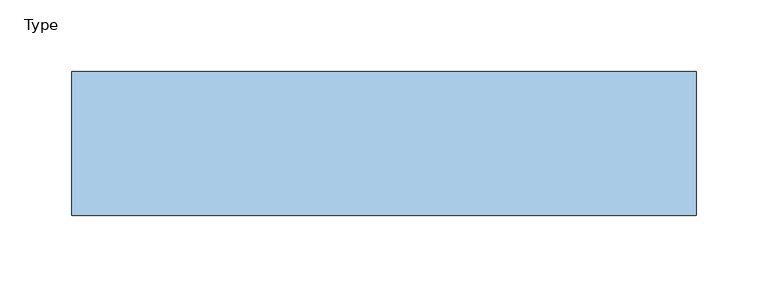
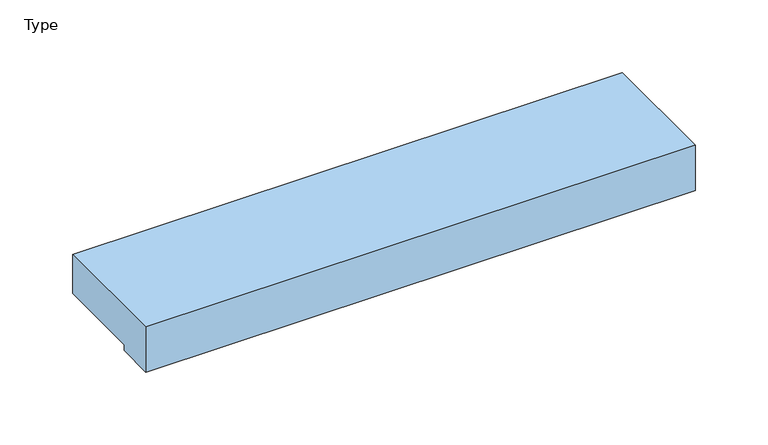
"""IFC4 building model written with IfcOpenShell, lengths in millimetres: window geometry, NLRS_30_MC_spouwlat_bovendorpel_bis_38x101 : Type."""

from ifc_helpers import new_model, si_unit, frame, origin, place, context, project, spatial, polyline, outline, extrude, source, transform, mapped, element, save


def type_b2457fb0(model_context):
    return source(origin(), model_context, "Body", "SweptSolid", [
        extrude(outline(polyline([(101.0, 0.0), (30.0, 0.0), (30.0, -5.0), (0.0, -5.0), (0.0, 33.0), (101.0, 33.0), (101.0, 0.0)])), frame((-218.5, 0.0, 0.0), z_axis=(1.0, 0.0, 0.0), x_axis=(0.0, 1.0, 0.0)), (0.0, 0.0, 1.0), 437.0),
    ])


if __name__ == "__main__":
    model = new_model("IFC4")
    model_context = context("Model", 3, world=origin())
    ifc_project = project(units=[si_unit("LENGTHUNIT", "METRE", prefix="MILLI")], contexts=[model_context])
    site = spatial("IfcSite", under=ifc_project)
    building = spatial("IfcBuilding", under=site)
    placement = place(None, origin())
    ifc_type_shape = type_b2457fb0(model_context)
    element("IfcWindow", 1, ObjectType="NLRS_30_MC_spouwlat_bovendorpel_bis_38x101 : Type", at=placement, inside=building, context=model_context, shape_type="MappedRepresentation", body=[
        mapped(ifc_type_shape, transform((0.0, 0.0, 0.0), x_axis=(1.0, 0.0, 0.0), y_axis=(0.0, 1.0, 0.0), z_axis=(0.0, 0.0, 1.0))),
    ])
    save(model, "model.ifc")
